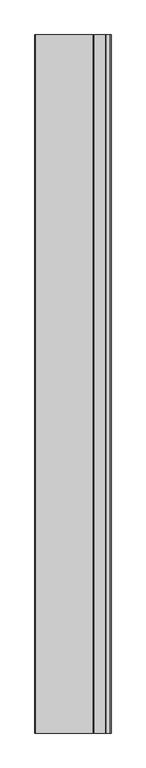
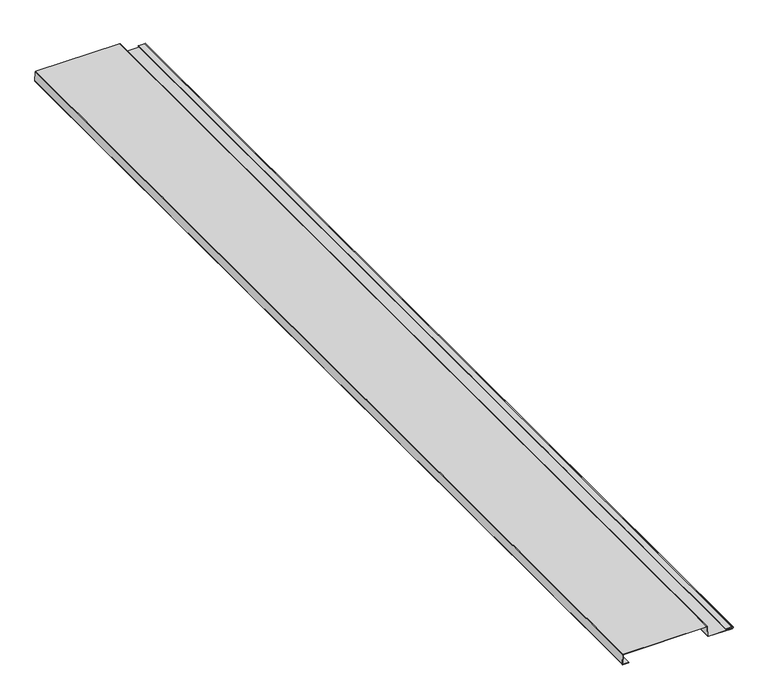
"""IFC4 building model written with IfcOpenShell, lengths in millimetres: proxy geometry."""

from ifc_helpers import new_model, si_unit, frame, origin, place, context, project, spatial, polyline, circle_curve, source, transform, mapped, element, save
from ifc_brep_helpers import plane_surface, cylinder_surface, revolved_surface, advanced_brep


def generic_models_ee5c945a(model_context):
    return source(origin(), model_context, "Body", "AdvancedBrep", [
        advanced_brep(
        [(-127.0231083, -3048.0, 0.0), (-109.442083, -3048.0, 0.0), (-109.442083, -3048.0, 0.89916), (-126.9797815, -3048.0, 0.89916), (-127.5900258, -3048.0, 1.5507177), (-126.1171396, -3048.0, 30.4870337), (-125.4083056, -3048.0, 31.0565357), (125.4609079, -3048.0, 31.0565357), (126.0300693, -3048.0, 30.5167704), (127.6343471, -3048.0, 0.7672871), (129.2768408, -3048.0, -0.7916395), (200.4996719, -3048.0, -0.7756433), (200.3191042, -3048.0, 5.7069279), (182.3685332, -3048.0, 5.7187045), (182.3689651, -3048.0, 3.181534), (194.0475236, -3048.0, 3.1677053), (194.0475236, -3048.0, 4.0668653), (182.3972272, -3048.0, 4.0668653), (182.3685631, -3048.0, 4.8195445), (200.3458036, -3048.0, 4.8201513), (200.4993277, -3048.0, 0.1235167), (129.3063893, -3048.0, 0.1235167), (128.532297, -3048.0, 0.8139213), (126.9849073, -3048.0, 30.6092251), (125.4606229, -3048.0, 31.9556891), (-125.4293408, -3048.0, 31.9556891), (-127.0150819, -3048.0, 30.5338122), (-128.5223565, -3048.0, 1.6007469), (-127.0231083, 0.0, 0.0), (-128.5223565, 0.0, 1.6007469), (-127.0150819, 0.0, 30.5338122), (-125.4293408, 0.0, 31.9556891), (125.4606229, 0.0, 31.9556891), (126.9217948, 0.0, 30.5699664), (128.532297, 0.0, 0.8139213), (129.2827496, 0.0, 0.1016504), (200.4993277, 0.0, 0.1235167), (200.3458036, 0.0, 4.8201513), (182.3685631, 0.0, 4.8195445), (182.3686911, 0.0, 4.0683115), (194.0475236, 0.0, 4.0668653), (194.0475236, 0.0, 3.1677053), (182.3975033, 0.0, 3.1677053), (182.3685332, 0.0, 5.7187045), (200.3457732, 0.0, 5.7193113), (200.4996719, 0.0, -0.7756433), (129.3067336, 0.0, -0.7756433), (127.6343471, 0.0, 0.7672871), (126.0869574, 0.0, 30.562591), (125.4609079, 0.0, 31.0565357), (-125.4083056, 0.0, 31.0565357), (-126.1171396, 0.0, 30.4870337), (-127.6244142, 0.0, 1.5539684), (-126.9797815, 0.0, 0.89916), (-109.442083, 0.0, 0.89916), (-109.442083, 0.0, 0.0)],
        [
            (0, 1),
            (1, 2),
            (2, 3),
            (3, 4, circle_curve(frame((-126.9797815, -3048.0, 1.5107141), z_axis=(0.0, 1.0, 0.0), x_axis=(1.0, 0.0, 0.0)), 0.6115541)),
            (4, 5),
            (5, 6, circle_curve(frame((-125.5084676, -3048.0, 30.4553248), z_axis=(0.0, 1.0, 0.0), x_axis=(1.0, 0.0, 0.0)), 0.6094973)),
            (6, 7),
            (7, 8, circle_curve(frame((125.4611004, -3048.0, 30.4867769), z_axis=(0.0, 1.0, 0.0), x_axis=(1.0, 0.0, 0.0)), 0.5697589)),
            (8, 9),
            (9, 10, circle_curve(frame((129.276336, -3048.0, 0.8525622), z_axis=(0.0, -1.0, 0.0), x_axis=(1.0, 0.0, 0.0)), 1.6442017)),
            (10, 11),
            (11, 12, circle_curve(frame((200.4984301, -3048.0, 2.4681225), z_axis=(0.0, -1.0, 0.0), x_axis=(1.0, 0.0, 0.0)), 3.243766)),
            (12, 13),
            (13, 14, circle_curve(frame((182.368576, -3048.0, 4.4501192), z_axis=(0.0, -1.0, 0.0), x_axis=(1.0, 0.0, 0.0)), 1.2685853)),
            (14, 15),
            (15, 16),
            (16, 17),
            (17, 18, circle_curve(frame((182.3685758, -3048.0, 4.443928), z_axis=(0.0, 1.0, 0.0), x_axis=(1.0, 0.0, 0.0)), 0.3756165)),
            (18, 19),
            (19, 20, circle_curve(frame((200.4984277, -3048.0, 2.4743138), z_axis=(0.0, 1.0, 0.0), x_axis=(1.0, 0.0, 0.0)), 2.3507973)),
            (20, 21),
            (21, 22, circle_curve(frame((129.2825189, -3048.0, 0.8528833), z_axis=(0.0, 1.0, 0.0), x_axis=(1.0, 0.0, 0.0)), 0.751233)),
            (22, 23),
            (23, 24, circle_curve(frame((125.4610986, -3048.0, 30.4929648), z_axis=(0.0, -1.0, 0.0), x_axis=(1.0, 0.0, 0.0)), 1.4627243)),
            (24, 25),
            (25, 26, circle_curve(frame((-125.5146505, -3048.0, 30.4556469), z_axis=(0.0, -1.0, 0.0), x_axis=(1.0, 0.0, 0.0)), 1.5024661)),
            (26, 27),
            (27, 0, circle_curve(frame((-127.0231083, -3048.0, 1.5024661), z_axis=(0.0, -1.0, 0.0), x_axis=(1.0, 0.0, 0.0)), 1.5024661)),
            (28, 29, circle_curve(frame((-127.0231083, 0.0, 1.5024661), z_axis=(0.0, 1.0, 0.0), x_axis=(1.0, 0.0, 0.0)), 1.5024661)),
            (29, 30),
            (30, 31, circle_curve(frame((-125.5146505, 0.0, 30.4556469), z_axis=(0.0, 1.0, 0.0), x_axis=(1.0, 0.0, 0.0)), 1.5024661)),
            (31, 32),
            (32, 33, circle_curve(frame((125.4610986, 0.0, 30.4929648), z_axis=(0.0, 1.0, 0.0), x_axis=(1.0, 0.0, 0.0)), 1.4627243)),
            (33, 34),
            (34, 35, circle_curve(frame((129.2825189, 0.0, 0.8528833), z_axis=(0.0, -1.0, 0.0), x_axis=(1.0, 0.0, 0.0)), 0.751233)),
            (35, 36),
            (36, 37, circle_curve(frame((200.4984277, 0.0, 2.4743138), z_axis=(0.0, -1.0, 0.0), x_axis=(1.0, 0.0, 0.0)), 2.3507973)),
            (37, 38),
            (38, 39, circle_curve(frame((182.3685758, 0.0, 4.443928), z_axis=(0.0, -1.0, 0.0), x_axis=(1.0, 0.0, 0.0)), 0.3756165)),
            (39, 40),
            (40, 41),
            (41, 42),
            (42, 43, circle_curve(frame((182.368576, 0.0, 4.4501192), z_axis=(0.0, 1.0, 0.0), x_axis=(1.0, 0.0, 0.0)), 1.2685853)),
            (43, 44),
            (44, 45, circle_curve(frame((200.4984301, 0.0, 2.4681225), z_axis=(0.0, 1.0, 0.0), x_axis=(1.0, 0.0, 0.0)), 3.243766)),
            (45, 46),
            (46, 47, circle_curve(frame((129.276336, 0.0, 0.8525622), z_axis=(0.0, 1.0, 0.0), x_axis=(1.0, 0.0, 0.0)), 1.6442017)),
            (47, 48),
            (48, 49, circle_curve(frame((125.4611004, 0.0, 30.4867769), z_axis=(0.0, -1.0, 0.0), x_axis=(1.0, 0.0, 0.0)), 0.5697589)),
            (49, 50),
            (50, 51, circle_curve(frame((-125.5084676, 0.0, 30.4553248), z_axis=(0.0, -1.0, 0.0), x_axis=(1.0, 0.0, 0.0)), 0.6094973)),
            (51, 52),
            (52, 53, circle_curve(frame((-126.9797815, 0.0, 1.5107141), z_axis=(0.0, -1.0, 0.0), x_axis=(1.0, 0.0, 0.0)), 0.6115541)),
            (53, 54),
            (54, 55),
            (55, 28),
            (0, 28),
            (55, 1),
            (54, 2),
            (53, 3),
            (52, 4),
            (51, 5),
            (50, 6),
            (49, 7),
            (48, 8),
            (47, 9),
            (46, 10),
            (45, 11),
            (44, 12),
            (43, 13),
            (42, 14),
            (41, 15),
            (40, 16),
            (39, 17),
            (38, 18),
            (37, 19),
            (36, 20),
            (35, 21),
            (34, 22),
            (33, 23),
            (32, 24),
            (31, 25),
            (30, 26),
            (29, 27),
        ],
        [
            plane_surface(frame((-109.442083, -3048.0, 0.0), z_axis=(0.0, -1.0, 0.0), x_axis=(1.0, 0.0, 0.0))),
            plane_surface(frame((-109.442083, 0.0, 0.0), z_axis=(0.0, 1.0, 0.0), x_axis=(-1.0, 0.0, 0.0))),
            plane_surface(frame((-127.0231083, -3048.0, 0.0), z_axis=(0.0, 0.0, -1.0), x_axis=(0.0, 1.0, 0.0))),
            plane_surface(frame((-109.442083, -3048.0, 0.0), z_axis=(1.0, 0.0, 0.0), x_axis=(0.0, 1.0, 0.0))),
            plane_surface(frame((-109.442083, -3048.0, 0.89916), z_axis=(0.0, 0.0, 1.0), x_axis=(0.0, 1.0, 0.0))),
            revolved_surface(polyline([(-126.3682274, 0.0, 1.5107141), (-126.3682274, -3048.0, 1.5107141)]), (-126.9797815, 0.0, 1.5107141), (0.0, 1.0, 0.0)),
            plane_surface(frame((-127.6244142, -3048.0, 1.5539684), z_axis=(0.998645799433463, 0.0, -0.05202467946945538), x_axis=(0.0, 1.0, 0.0))),
            revolved_surface(polyline([(-124.8989703, 0.0, 30.4553248), (-124.8989703, -3048.0, 30.4553248)]), (-125.5084676, 0.0, 30.4553248), (0.0, 1.0, 0.0)),
            plane_surface(frame((-125.4083056, -3048.0, 31.0565357), z_axis=(0.0, 0.0, -1.0), x_axis=(0.0, 1.0, 0.0))),
            revolved_surface(polyline([(126.0308593, 0.0, 30.4867769), (126.0308593, -3048.0, 30.4867769)]), (125.4611004, 0.0, 30.4867769), (0.0, 1.0, 0.0)),
            plane_surface(frame((126.0869574, -3048.0, 30.562591), z_axis=(-0.9986541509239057, 0.0, -0.05186411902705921), x_axis=(0.0, 1.0, 0.0))),
            cylinder_surface(frame((129.276336, 0.0, 0.8525622), z_axis=(0.0, -1.0, 0.0), x_axis=(1.0, 0.0, 0.0)), 1.6442017),
            plane_surface(frame((129.3067336, -3048.0, -0.7756433), z_axis=(0.0, 0.0, -1.0), x_axis=(0.0, 1.0, 0.0))),
            cylinder_surface(frame((200.4984301, 0.0, 2.4681225), z_axis=(0.0, -1.0, 0.0), x_axis=(1.0, 0.0, 0.0)), 3.243766),
            plane_surface(frame((200.3457732, -3048.0, 5.7193113), z_axis=(-3.3751758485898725e-05, 0.0, 0.9999999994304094), x_axis=(0.0, 1.0, 0.0))),
            cylinder_surface(frame((182.368576, 0.0, 4.4501192), z_axis=(0.0, -1.0, 0.0), x_axis=(1.0, 0.0, 0.0)), 1.2685853),
            plane_surface(frame((182.3975033, -3048.0, 3.1677053), z_axis=(0.0, 0.0, -1.0), x_axis=(0.0, 1.0, 0.0))),
            plane_surface(frame((194.0475236, -3048.0, 3.1677053), z_axis=(1.0, 0.0, 0.0), x_axis=(0.0, 1.0, 0.0))),
            plane_surface(frame((194.0475236, -3048.0, 4.0668653), z_axis=(0.0, 0.0, 1.0), x_axis=(0.0, 1.0, 0.0))),
            revolved_surface(polyline([(182.7441923, 0.0, 4.443928), (182.7441923, -3048.0, 4.443928)]), (182.3685758, 0.0, 4.443928), (0.0, 1.0, 0.0)),
            plane_surface(frame((182.3685631, -3048.0, 4.8195445), z_axis=(3.3751758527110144e-05, 0.0, -0.9999999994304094), x_axis=(0.0, 1.0, 0.0))),
            revolved_surface(polyline([(202.84922500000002, 0.0, 2.4743138), (202.84922500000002, -3048.0, 2.4743138)]), (200.4984277, 0.0, 2.4743138), (0.0, 1.0, 0.0)),
            plane_surface(frame((200.4993277, -3048.0, 0.1235167), z_axis=(0.0, 0.0, 1.0), x_axis=(0.0, 1.0, 0.0))),
            revolved_surface(polyline([(130.03375190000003, 0.0, 0.8528833), (130.03375190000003, -3048.0, 0.8528833)]), (129.2825189, 0.0, 0.8528833), (0.0, 1.0, 0.0)),
            plane_surface(frame((128.532297, -3048.0, 0.8139213), z_axis=(0.9986541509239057, 0.0, 0.05186411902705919), x_axis=(0.0, 1.0, 0.0))),
            cylinder_surface(frame((125.4610986, 0.0, 30.4929648), z_axis=(0.0, -1.0, 0.0), x_axis=(1.0, 0.0, 0.0)), 1.4627243),
            plane_surface(frame((125.4606229, -3048.0, 31.9556891), z_axis=(0.0, 0.0, 1.0), x_axis=(0.0, 1.0, 0.0))),
            cylinder_surface(frame((-125.5146505, 0.0, 30.4556469), z_axis=(0.0, -1.0, 0.0), x_axis=(1.0, 0.0, 0.0)), 1.5024661),
            plane_surface(frame((-127.0150819, -3048.0, 30.5338122), z_axis=(-0.9986457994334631, 0.0, 0.052024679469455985), x_axis=(0.0, 1.0, 0.0))),
            cylinder_surface(frame((-127.0231083, 0.0, 1.5024661), z_axis=(0.0, -1.0, 0.0), x_axis=(1.0, 0.0, 0.0)), 1.5024661),
        ],
        [
            (0, [[1, 2, 3, 4, 5, 6, 7, 8, 9, 10, 11, 12, 13, 14, 15, 16, 17, 18, 19, 20, 21, 22, 23, 24, 25, 26, 27, 28]]),
            (1, [[29, 30, 31, 32, 33, 34, 35, 36, 37, 38, 39, 40, 41, 42, 43, 44, 45, 46, 47, 48, 49, 50, 51, 52, 53, 54, 55, 56]]),
            (2, [[-1, 57, -56, 58]]),
            (3, [[-2, -58, -55, 59]]),
            (4, [[-3, -59, -54, 60]]),
            (5, [[-4, -60, -53, 61]]),
            (6, [[-5, -61, -52, 62]]),
            (7, [[-6, -62, -51, 63]]),
            (8, [[-7, -63, -50, 64]]),
            (9, [[-8, -64, -49, 65]]),
            (10, [[-9, -65, -48, 66]]),
            (11, [[-10, -66, -47, 67]]),
            (12, [[-11, -67, -46, 68]]),
            (13, [[-12, -68, -45, 69]]),
            (14, [[-13, -69, -44, 70]]),
            (15, [[-14, -70, -43, 71]]),
            (16, [[-15, -71, -42, 72]]),
            (17, [[-16, -72, -41, 73]]),
            (18, [[-17, -73, -40, 74]]),
            (19, [[-18, -74, -39, 75]]),
            (20, [[-19, -75, -38, 76]]),
            (21, [[-20, -76, -37, 77]]),
            (22, [[-21, -77, -36, 78]]),
            (23, [[-22, -78, -35, 79]]),
            (24, [[-23, -79, -34, 80]]),
            (25, [[-24, -80, -33, 81]]),
            (26, [[-25, -81, -32, 82]]),
            (27, [[-26, -82, -31, 83]]),
            (28, [[-27, -83, -30, 84]]),
            (29, [[-28, -84, -29, -57]]),
        ],
    ),
    ])


if __name__ == "__main__":
    model = new_model("IFC4")
    model_context = context("Model", 3, world=origin())
    ifc_project = project(units=[si_unit("LENGTHUNIT", "METRE", prefix="MILLI")], contexts=[model_context])
    site = spatial("IfcSite", under=ifc_project)
    building = spatial("IfcBuilding", under=site)
    placement = place(None, origin())
    generic_models_shape = generic_models_ee5c945a(model_context)
    element("IfcBuildingElementProxy", 1, Name="Flex-Series_1.2FX20-12c_Panel_AEP_Span : 12\" Flex Series 1.2FX20-12c - 20GA", ObjectType="Flex-Series_1.2FX20-12c_Panel_AEP_Span : 12\" Flex Series 1.2FX20-12c - 20GA", at=placement, inside=building, context=model_context, shape_type="MappedRepresentation", body=[
        mapped(generic_models_shape, transform((0.0, 0.0, 0.0), x_axis=(1.0, 0.0, 0.0), y_axis=(0.0, 1.0, 0.0), z_axis=(0.0, 0.0, 1.0))),
    ])
    save(model, "model.ifc")
